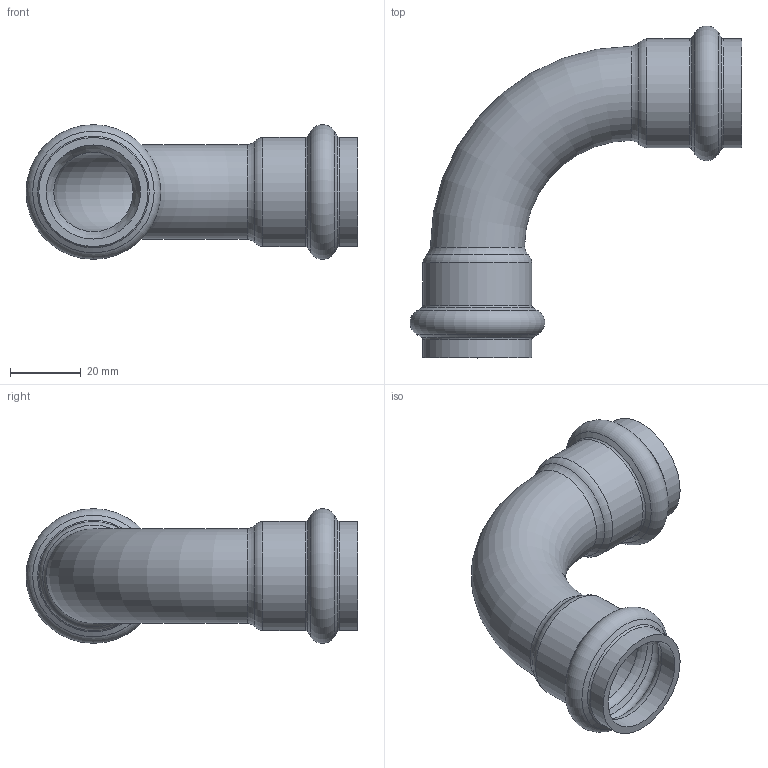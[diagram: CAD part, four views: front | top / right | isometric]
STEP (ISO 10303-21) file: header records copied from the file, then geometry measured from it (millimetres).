
FILE_DESCRIPTION(/* description */ ('VIC 90 DEG ST ELBOW STYLE P568 (P X P)','CAx-IF Rec.Pracs.---Representation and Presentation of Product Manufacturing Information (PMI)---4.0---2014-10-13'),/* implementation_level */ '2;1');
FILE_NAME(/* name */ 'C:\Users\kkamble\AppData\Roaming\Autodesk\ApplicationPlugins\Back Up\Victaulic_SS-Vic-Press-TP 316_Elbow 90 Deg_Style P568 (VP)\Victaulic_SS-Vic-Press-TP 316_Elbow 90 Deg_Style P568 (VP)_0.75 (20).stp',/* time_stamp */ '2020-08-14T14:06:31+06:00',/* author */ ('cgray'),/* organization */ ('Victaulic'),/* preprocessor_version */ 'ST-DEVELOPER v17.2',/* originating_system */ 'Autodesk Inventor 2019',/* authorisation */ '');
FILE_SCHEMA (('AP242_MANAGED_MODEL_BASED_3D_ENGINEERING_MIM_LF { 1 0 10303 442 1 1 4 }'));
Length unit declared in the file: inch
Products named in the file (1): P568-0.75
Bounding box: 94.01 x 94.01 x 38.15 mm (x, y, z)
Volume: 24829.6 mm3; surface area: 24101.7 mm2
Topology: 1 solids, 1 shells, 38 faces, 140 edges, 104 vertices
Faces by surface type: torus 18, cone 10, cylinder 8, plane 2
Full cylindrical faces by diameter (mm): 26.67 x4, 30.886 x4
Entity records: 1796 total; most frequent: DIRECTION 366, CARTESIAN_POINT 300, ORIENTED_EDGE 280, AXIS2_PLACEMENT_3D 174, EDGE_CURVE 140, CIRCLE 122, VERTEX_POINT 104, EDGE_LOOP 40
